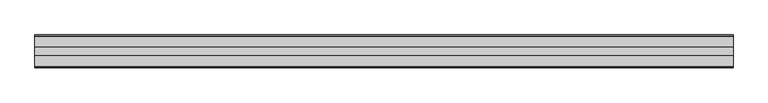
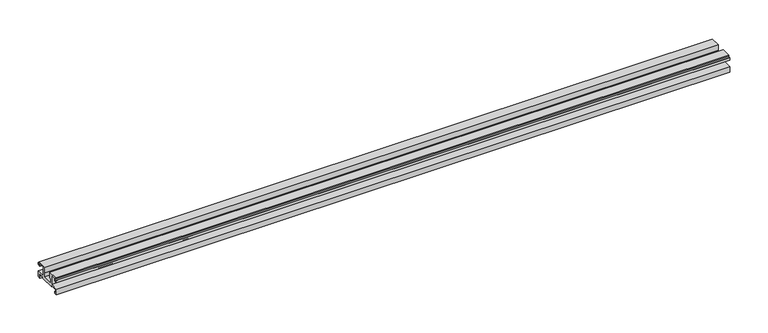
"""IFC4 building model written with IfcOpenShell, lengths in millimetres: proxy geometry, Weiku - Montante - Acoplamento vidro : Weiku - Montante - Acoplamento vidro."""

import ifcopenshell
import ifcopenshell.guid

model = None  # the IFC model being written
_history = None  # IfcOwnerHistory: only IFC2X3 demands one
_inside = {}  # id of a spatial element -> (the spatial element, [elements in it])
_under = {}  # id of a project, library or spatial element -> (it, [spatial elements below it])
_declared = {}  # id of a project -> (the project, [libraries it declares])
_typed = {}  # id of a type object -> (the type object, [elements of that type])
_made_of = {}  # id of a material, layer set ... -> (it, [elements and type objects made of it])


def new_model(schema):
    """Start an empty IFC model of exactly this schema.

    Asked for "IFC4X3", IfcOpenShell would pick the latest addendum, in which some entities
    have other attributes; the version numbers below select the first issue.
    IFC2X3 requires an IfcOwnerHistory on every rooted entity: one is made here for all.
    """
    global model, _history
    if schema == "IFC4X3":
        model = ifcopenshell.file(schema_version=(4, 3, 0, 0))
    else:
        model = ifcopenshell.file(schema=schema)
    _inside.clear()
    _under.clear()
    _declared.clear()
    _typed.clear()
    _made_of.clear()
    _history = None
    if model.schema == "IFC2X3":
        org = make("IfcOrganization", Name="unknown")
        user = make(
            "IfcPersonAndOrganization",
            ThePerson=make("IfcPerson", FamilyName="unknown"),
            TheOrganization=org,
        )
        app = make(
            "IfcApplication",
            ApplicationDeveloper=org,
            Version="unknown",
            ApplicationFullName="unknown",
            ApplicationIdentifier="unknown",
        )
        _history = make(
            "IfcOwnerHistory",
            OwningUser=user,
            OwningApplication=app,
            ChangeAction="ADDED",
            CreationDate=0,
        )
    return model


def make(cls, **values):
    """One entity of the class cls with the attributes given. An attribute that is None is left unset."""
    return model.create_entity(
        cls, **{name: value for name, value in values.items() if value is not None}
    )


def rooted(cls, **values):
    """An entity with a GlobalId (a new one), such as an element, a storey or a relation."""
    return make(cls, GlobalId=ifcopenshell.guid.new(), OwnerHistory=_history, **values)


def si_unit(unit_type, name, prefix=None):
    """IfcSIUnit, for example si_unit("LENGTHUNIT", "METRE", prefix="MILLI")."""
    return make("IfcSIUnit", UnitType=unit_type, Prefix=prefix, Name=name)


def assignment(units):
    """IfcUnitAssignment: the units of a project."""
    return None if units is None else make("IfcUnitAssignment", Units=units)


def point(xyz):
    """IfcCartesianPoint."""
    return None if xyz is None else make("IfcCartesianPoint", Coordinates=xyz)


def direction(xyz):
    """IfcDirection."""
    return None if xyz is None else make("IfcDirection", DirectionRatios=xyz)


def frame(location, z_axis=None, x_axis=None):
    """IfcAxis2Placement3D, a coordinate frame: its origin and axes. An axis left out is left unset."""
    return make(
        "IfcAxis2Placement3D",
        Location=point(location),
        Axis=direction(z_axis),
        RefDirection=direction(x_axis),
    )


def origin():
    """The frame at (0, 0, 0) with its axes left unset."""
    return frame((0.0, 0.0, 0.0))


def place(relative_to, where):
    """IfcLocalPlacement: puts the frame where relative to a parent placement (None: the world)."""
    return make(
        "IfcLocalPlacement", PlacementRelTo=relative_to, RelativePlacement=where
    )


def context(
    kind, dimensions, precision=None, world=None, true_north=None, identifier=None
):
    """IfcGeometricRepresentationContext, for example the 3D "Model" context."""
    return make(
        "IfcGeometricRepresentationContext",
        ContextIdentifier=identifier,
        ContextType=kind,
        CoordinateSpaceDimension=dimensions,
        Precision=precision,
        WorldCoordinateSystem=world,
        TrueNorth=true_north,
    )


def project(units=None, contexts=None):
    """IfcProject with its units and contexts."""
    return rooted(
        "IfcProject",
        Name="project",
        RepresentationContexts=contexts,
        UnitsInContext=assignment(units),
    )


def spatial(cls, under=None, at=None, **own):
    """A site, building, storey or space (cls), placed at a placement, below another one or the project."""
    s = rooted(cls, ObjectPlacement=at, **own)
    if under is not None:
        _under.setdefault(under.id(), (under, []))[1].append(s)
    return s


def polyline(points):
    """IfcPolyline through the points."""
    return make("IfcPolyline", Points=[point(p) for p in points])


def outline(outer, holes=None, kind="AREA"):
    """IfcArbitraryClosedProfileDef: a profile drawn as a closed curve; with holes, ...WithVoids."""
    if holes is None:
        return make("IfcArbitraryClosedProfileDef", ProfileType=kind, OuterCurve=outer)
    return make(
        "IfcArbitraryProfileDefWithVoids",
        ProfileType=kind,
        OuterCurve=outer,
        InnerCurves=holes,
    )


def extrude(swept, where, along, depth):
    """IfcExtrudedAreaSolid: the profile swept, set in the frame where, extruded along a direction by depth."""
    return make(
        "IfcExtrudedAreaSolid",
        SweptArea=swept,
        Position=where,
        ExtrudedDirection=direction(along),
        Depth=depth,
    )


def shape(context_of_items, identifier, shape_type, items):
    """IfcShapeRepresentation: the items that make up one representation, for example the "Body"."""
    return make(
        "IfcShapeRepresentation",
        ContextOfItems=context_of_items,
        RepresentationIdentifier=identifier,
        RepresentationType=shape_type,
        Items=items,
    )


def source(mapping_origin, context_of_items, identifier, shape_type, items):
    """IfcRepresentationMap: a shape defined once, which mapped items show again and again."""
    return make(
        "IfcRepresentationMap",
        MappingOrigin=mapping_origin,
        MappedRepresentation=shape(context_of_items, identifier, shape_type, items),
    )


def transform(
    local_origin,
    x_axis=None,
    y_axis=None,
    z_axis=None,
    scale=None,
    scale2=None,
    scale3=None,
    uniform=True,
):
    """IfcCartesianTransformationOperator3D, or its non-uniform kind. x_axis, y_axis, z_axis: its Axis1, 2, 3."""
    if uniform:
        return make(
            "IfcCartesianTransformationOperator3D",
            Axis1=direction(x_axis),
            Axis2=direction(y_axis),
            LocalOrigin=point(local_origin),
            Scale=scale,
            Axis3=direction(z_axis),
        )
    return make(
        "IfcCartesianTransformationOperator3DnonUniform",
        Axis1=direction(x_axis),
        Axis2=direction(y_axis),
        LocalOrigin=point(local_origin),
        Scale=scale,
        Axis3=direction(z_axis),
        Scale2=scale2,
        Scale3=scale3,
    )


def mapped(mapping_source, mapping_target):
    """IfcMappedItem: shows the shape of a source again, moved by a transform."""
    return make(
        "IfcMappedItem", MappingSource=mapping_source, MappingTarget=mapping_target
    )


def made_of(thing, what):
    """Note that an element or type object is made of a material, layer set ...; save() writes the relation."""
    if what is not None:
        _made_of.setdefault(what.id(), (what, []))[1].append(thing)
    return thing


def element(
    cls,
    number,
    at=None,
    inside=None,
    cuts=None,
    type_object=None,
    material=None,
    context=None,
    identifier="Body",
    shape_type=None,
    held_by="IfcProductDefinitionShape",
    body=None,
    shapes=None,
    **own,
):
    """One element of the class cls, such as IfcWall. Its Tag is "e" and its number.

    at: its placement. inside: the storey or other place that contains it. cuts: it is an
    opening in that element (IfcRelVoidsElement). A single representation is given by context,
    identifier, shape_type and body (its items); several are given by shapes. held_by: the class
    of the entity that holds the representations. save() writes the other relations.
    """
    e = rooted(cls, Tag="e%d" % number, ObjectPlacement=at, **own)
    if body is not None:
        shapes = [shape(context, identifier, shape_type, body)]
    if shapes is not None:
        e.Representation = make(held_by, Representations=shapes)
    if inside is not None:
        _inside.setdefault(inside.id(), (inside, []))[1].append(e)
    if cuts is not None:
        rooted(
            "IfcRelVoidsElement", RelatingBuildingElement=cuts, RelatedOpeningElement=e
        )
    if type_object is not None:
        _typed.setdefault(type_object.id(), (type_object, []))[1].append(e)
    return made_of(e, material)


def aggregate(whole, parts):
    """IfcRelAggregates: a whole, such as a stair, and the parts it consists of."""
    return rooted("IfcRelAggregates", RelatingObject=whole, RelatedObjects=parts)


def save(model, path):
    """Write the relations noted so far, then the file.

    IfcRelAggregates (storeys below a building ...), IfcRelContainedInSpatialStructure (elements
    in a storey), IfcRelDefinesByType, IfcRelAssociatesMaterial and IfcRelDeclares: one each for
    every whole, place, type object, material and project.
    """
    for whole, parts in _under.values():
        aggregate(whole, parts)
    for where, things in _inside.values():
        rooted(
            "IfcRelContainedInSpatialStructure",
            RelatedElements=things,
            RelatingStructure=where,
        )
    for kind, things in _typed.values():
        rooted("IfcRelDefinesByType", RelatedObjects=things, RelatingType=kind)
    for what, things in _made_of.values():
        rooted("IfcRelAssociatesMaterial", RelatedObjects=things, RelatingMaterial=what)
    for by, libraries in _declared.values():
        rooted("IfcRelDeclares", RelatingContext=by, RelatedDefinitions=libraries)
    model.write(path)


def generic_models_031473f9(model_context):
    return source(origin(), model_context, "Body", "SweptSolid", [
        extrude(outline(polyline([(-35.405, 5.1494), (-35.405, 6.8004), (-45.741, 6.8004), (-45.741, 2.6094), (-43.8784, 2.6094), (-43.8784, 0.0), (-47.9014508, 0.0), (-47.9014508, 8.79), (-34.946, 8.79), (-34.946, 23.3104), (-43.5397, 23.3104), (-43.5397, 19.204), (-47.9, 19.204), (-47.9, 22.8024), (-46.9264, 22.8024), (-46.9264, 20.3894), (-44.725, 20.3894), (-44.725, 23.9454), (-45.5264504, 23.9454), (-45.5264504, 25.3), (-30.4164, 25.3), (-30.4164, 16.283), (-32.4484, 16.283), (-32.4484, 8.8), (-15.4516, 8.8), (-15.4516, 16.283), (-17.4836, 16.283), (-17.4836, 25.3), (-2.3735496, 25.3), (-2.3735496, 23.9454), (-3.175, 23.9454), (-3.175, 20.3894), (-0.9736, 20.3894), (-0.9736, 22.8024), (0.0, 22.8024), (0.0, 19.204), (-4.3603, 19.204), (-4.3603, 23.3104), (-12.954, 23.3104), (-12.954, 8.79), (0.0014508, 8.79), (0.0014508, 0.0), (-4.0216, 0.0), (-4.0216, 2.6094), (-2.159, 2.6094), (-2.159, 6.8004), (-12.495, 6.8004), (-12.495, 5.1494), (-35.405, 5.1494)])), frame((-509.15, 0.0, 0.0), z_axis=(1.0, 0.0, 0.0), x_axis=(0.0, 1.0, 0.0)), (0.0, 0.0, 1.0), 1018.3),
    ])


if __name__ == "__main__":
    model = new_model("IFC4")
    model_context = context("Model", 3, world=origin())
    ifc_project = project(units=[si_unit("LENGTHUNIT", "METRE", prefix="MILLI")], contexts=[model_context])
    site = spatial("IfcSite", under=ifc_project)
    building = spatial("IfcBuilding", under=site)
    placement = place(None, origin())
    generic_models_shape = generic_models_031473f9(model_context)
    element("IfcBuildingElementProxy", 1, Name="Weiku - Montante - Acoplamento vidro : Weiku - Montante - Acoplamento vidro", ObjectType="Weiku - Montante - Acoplamento vidro : Weiku - Montante - Acoplamento vidro", at=placement, inside=building, context=model_context, shape_type="MappedRepresentation", body=[
        mapped(generic_models_shape, transform((0.0, 0.0, 0.0), x_axis=(1.0, 0.0, 0.0), y_axis=(0.0, 1.0, 0.0), z_axis=(0.0, 0.0, 1.0))),
    ])
    save(model, "model.ifc")
